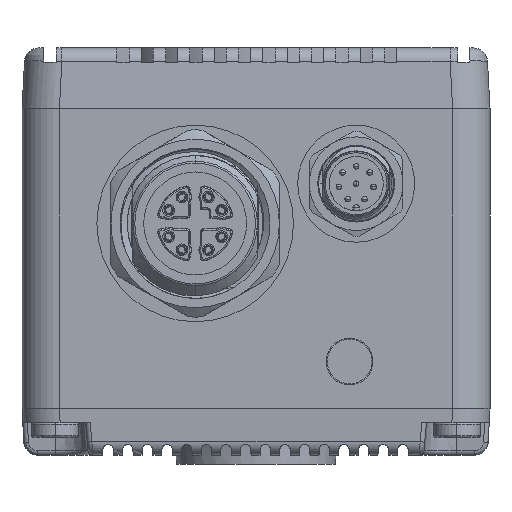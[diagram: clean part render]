
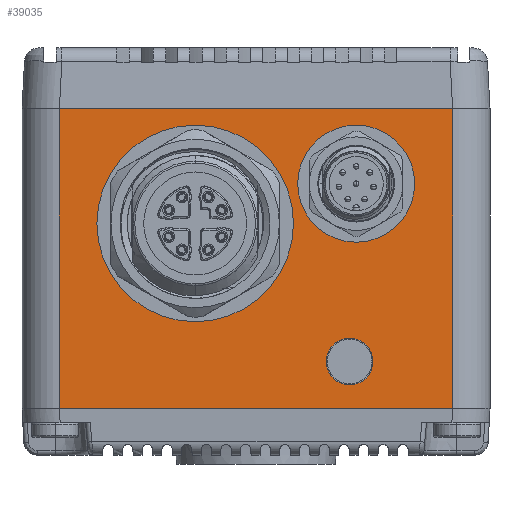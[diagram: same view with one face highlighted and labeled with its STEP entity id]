
A CAD part, left-side view. The second image highlights one B-rep face of the part: STEP entity #39035.
In plain terms, the highlighted planar face has unit normal (-1, 0, 0).
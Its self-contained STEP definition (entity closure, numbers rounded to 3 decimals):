
#2843=CARTESIAN_POINT('',(-59.,-10.7,3.));
#2844=DIRECTION('',(-1.,0.,0.));
#2845=DIRECTION('',(0.,-1.,0.));
#2846=AXIS2_PLACEMENT_3D('',#2843,#2844,#2845);
#2851=CARTESIAN_POINT('',(-59.,-10.7,3.));
#2852=DIRECTION('',(-1.,0.,0.));
#2853=DIRECTION('',(0.,1.,0.));
#2854=AXIS2_PLACEMENT_3D('',#2851,#2852,#2853);
#2859=CARTESIAN_POINT('',(-59.,-10.,-16.));
#2860=DIRECTION('',(-1.,0.,0.));
#2861=DIRECTION('',(0.,-1.,0.));
#2862=AXIS2_PLACEMENT_3D('',#2859,#2860,#2861);
#2867=CARTESIAN_POINT('',(-59.,-10.,-16.));
#2868=DIRECTION('',(-1.,0.,0.));
#2869=DIRECTION('',(0.,1.,0.));
#2870=AXIS2_PLACEMENT_3D('',#2867,#2868,#2869);
#2875=CARTESIAN_POINT('',(-59.,6.5,-1.25));
#2876=DIRECTION('',(-1.,0.,0.));
#2877=DIRECTION('',(0.,1.,0.));
#2878=AXIS2_PLACEMENT_3D('',#2875,#2876,#2877);
#2883=CARTESIAN_POINT('',(-59.,6.5,-1.25));
#2884=DIRECTION('',(-1.,0.,0.));
#2885=DIRECTION('',(0.,-1.,0.));
#2886=AXIS2_PLACEMENT_3D('',#2883,#2884,#2885);
#2891=DIRECTION('',(0.,0.,-1.));
#2892=VECTOR('',#2891,32.);
#2893=CARTESIAN_POINT('',(-59.,21.,11.));
#2894=LINE('',#2893,#2892);
#2898=DIRECTION('',(0.,0.,-1.));
#2899=VECTOR('',#2898,32.);
#2900=CARTESIAN_POINT('',(-59.,-21.,11.));
#2901=LINE('',#2900,#2899);
#2905=DIRECTION('',(0.,-1.,0.));
#2906=VECTOR('',#2905,42.);
#2907=CARTESIAN_POINT('',(-59.,21.,-21.));
#2908=LINE('',#2907,#2906);
#12866=DIRECTION('',(0.,-1.,0.));
#12867=VECTOR('',#12866,42.);
#12868=CARTESIAN_POINT('',(-59.,21.,11.));
#12869=LINE('',#12868,#12867);
#33201=CARTESIAN_POINT('',(-59.,-12.5,-16.));
#33202=CARTESIAN_POINT('',(-59.,-7.5,-16.));
#33203=VERTEX_POINT('',#33201);
#33204=VERTEX_POINT('',#33202);
#33209=CARTESIAN_POINT('',(-59.,-16.95,3.));
#33210=CARTESIAN_POINT('',(-59.,-4.45,3.));
#33211=VERTEX_POINT('',#33209);
#33212=VERTEX_POINT('',#33210);
#33225=CARTESIAN_POINT('',(-59.,17.,-1.25));
#33226=CARTESIAN_POINT('',(-59.,-4.,-1.25));
#33227=VERTEX_POINT('',#33225);
#33228=VERTEX_POINT('',#33226);
#33770=CARTESIAN_POINT('',(-59.,21.,11.));
#33771=CARTESIAN_POINT('',(-59.,-21.,11.));
#33772=VERTEX_POINT('',#33770);
#33773=VERTEX_POINT('',#33771);
#35724=CARTESIAN_POINT('',(-59.,21.,-21.));
#35725=CARTESIAN_POINT('',(-59.,-21.,-21.));
#35726=VERTEX_POINT('',#35724);
#35727=VERTEX_POINT('',#35725);
#39003=CARTESIAN_POINT('',(-59.,25.,-26.));
#39004=DIRECTION('',(-1.,0.,0.));
#39005=DIRECTION('',(0.,-1.,0.));
#39006=AXIS2_PLACEMENT_3D('',#39003,#39004,#39005);
#39007=PLANE('',#39006);
#39009=ORIENTED_EDGE('',*,*,#39008,.F.);
#39011=ORIENTED_EDGE('',*,*,#39010,.T.);
#39013=ORIENTED_EDGE('',*,*,#39012,.T.);
#39015=ORIENTED_EDGE('',*,*,#39014,.F.);
#39016=EDGE_LOOP('',(#39009,#39011,#39013,#39015));
#39017=FACE_OUTER_BOUND('',#39016,.F.);
#39019=ORIENTED_EDGE('',*,*,#39018,.T.);
#39021=ORIENTED_EDGE('',*,*,#39020,.T.);
#39022=EDGE_LOOP('',(#39019,#39021));
#39023=FACE_BOUND('',#39022,.F.);
#39025=ORIENTED_EDGE('',*,*,#39024,.T.);
#39027=ORIENTED_EDGE('',*,*,#39026,.T.);
#39028=EDGE_LOOP('',(#39025,#39027));
#39029=FACE_BOUND('',#39028,.F.);
#39030=ORIENTED_EDGE('',*,*,#38993,.T.);
#39032=ORIENTED_EDGE('',*,*,#39031,.T.);
#39033=EDGE_LOOP('',(#39030,#39032));
#39034=FACE_BOUND('',#39033,.F.);
#39035=ADVANCED_FACE('',(#39017,#39023,#39029,#39034),#39007,.T.);
#2847=CIRCLE('',#2846,6.25);
#2855=CIRCLE('',#2854,6.25);
#2863=CIRCLE('',#2862,2.5);
#2871=CIRCLE('',#2870,2.5);
#2879=CIRCLE('',#2878,10.5);
#2887=CIRCLE('',#2886,10.5);
#38993=EDGE_CURVE('',#33211,#33212,#2847,.T.);
#39008=EDGE_CURVE('',#33772,#35726,#2894,.T.);
#39010=EDGE_CURVE('',#33772,#33773,#12869,.T.);
#39012=EDGE_CURVE('',#33773,#35727,#2901,.T.);
#39014=EDGE_CURVE('',#35726,#35727,#2908,.T.);
#39018=EDGE_CURVE('',#33203,#33204,#2863,.T.);
#39020=EDGE_CURVE('',#33204,#33203,#2871,.T.);
#39024=EDGE_CURVE('',#33227,#33228,#2879,.T.);
#39026=EDGE_CURVE('',#33228,#33227,#2887,.T.);
#39031=EDGE_CURVE('',#33212,#33211,#2855,.T.);
